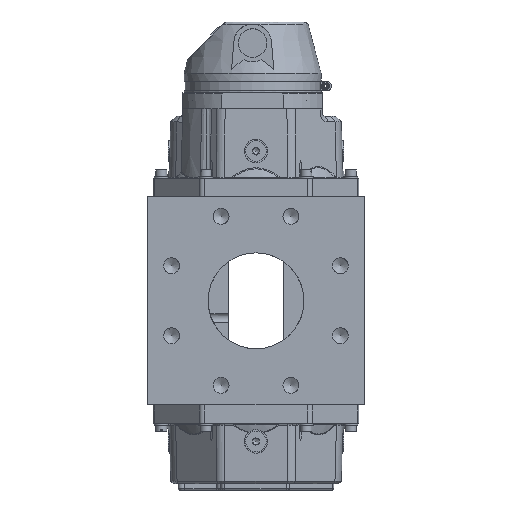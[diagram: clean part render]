
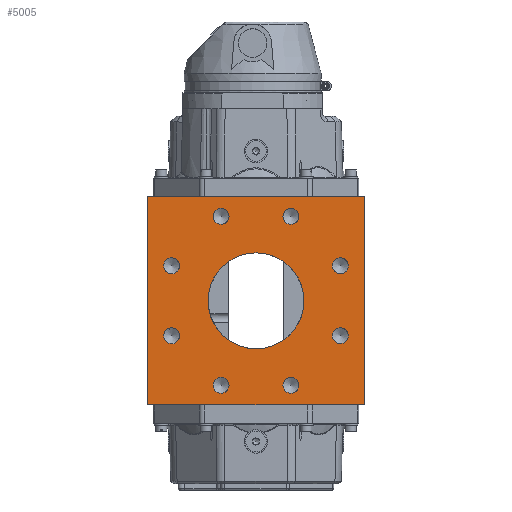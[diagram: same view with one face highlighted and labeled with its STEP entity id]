
A CAD part, left-side view. The second image highlights one B-rep face of the part: STEP entity #5005.
In plain terms, the highlighted planar face has unit normal (-1, 0, 0).
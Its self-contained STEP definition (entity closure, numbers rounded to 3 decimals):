
#5005=ADVANCED_FACE('',(#21548,#21550,#21552,#21554,#21556,#21558,#21560,#21562,
#21564,#21566),#21568,.F.);
#21548=FACE_BOUND('',#21549,.T.);
#21549=EDGE_LOOP('',(#34964,#34965,#34966,#34967));
#21550=FACE_BOUND('',#21551,.T.);
#21551=EDGE_LOOP('',(#34968));
#21552=FACE_BOUND('',#21553,.T.);
#21553=EDGE_LOOP('',(#34969));
#21554=FACE_BOUND('',#21555,.T.);
#21555=EDGE_LOOP('',(#34970));
#21556=FACE_BOUND('',#21557,.T.);
#21557=EDGE_LOOP('',(#34971));
#21558=FACE_BOUND('',#21559,.T.);
#21559=EDGE_LOOP('',(#34972));
#21560=FACE_BOUND('',#21561,.T.);
#21561=EDGE_LOOP('',(#34973));
#21562=FACE_BOUND('',#21563,.T.);
#21563=EDGE_LOOP('',(#34974));
#21564=FACE_BOUND('',#21565,.T.);
#21565=EDGE_LOOP('',(#34975));
#21566=FACE_BOUND('',#21567,.T.);
#21567=EDGE_LOOP('',(#34976));
#21568=PLANE('',#21569);
#21569=AXIS2_PLACEMENT_3D('',#21570,#21571,#21572);
#21570=CARTESIAN_POINT('',(-85.5,95.,91.15));
#21571=DIRECTION('',(1.,0.,0.));
#21572=DIRECTION('',(0.,0.,-1.));
#34964=ORIENTED_EDGE('',*,*,#41023,.T.);
#34965=ORIENTED_EDGE('',*,*,#41024,.F.);
#34966=ORIENTED_EDGE('',*,*,#40677,.F.);
#34967=ORIENTED_EDGE('',*,*,#41022,.T.);
#34968=ORIENTED_EDGE('',*,*,#41025,.T.);
#34969=ORIENTED_EDGE('',*,*,#41026,.F.);
#34970=ORIENTED_EDGE('',*,*,#41027,.F.);
#34971=ORIENTED_EDGE('',*,*,#41028,.F.);
#34972=ORIENTED_EDGE('',*,*,#41029,.F.);
#34973=ORIENTED_EDGE('',*,*,#41030,.F.);
#34974=ORIENTED_EDGE('',*,*,#41031,.F.);
#34975=ORIENTED_EDGE('',*,*,#41032,.F.);
#34976=ORIENTED_EDGE('',*,*,#41033,.F.);
#40677=EDGE_CURVE('',#45080,#45082,#45083,.T.);
#41022=EDGE_CURVE('',#45080,#45628,#45630,.T.);
#41023=EDGE_CURVE('',#45628,#45631,#45632,.T.);
#41024=EDGE_CURVE('',#45082,#45631,#45633,.T.);
#41025=EDGE_CURVE('',#45634,#45634,#45635,.T.);
#41026=EDGE_CURVE('',#45636,#45636,#45637,.T.);
#41027=EDGE_CURVE('',#45638,#45638,#45639,.T.);
#41028=EDGE_CURVE('',#45640,#45640,#45641,.T.);
#41029=EDGE_CURVE('',#45642,#45642,#45643,.T.);
#41030=EDGE_CURVE('',#45644,#45644,#45645,.T.);
#41031=EDGE_CURVE('',#45646,#45646,#45647,.T.);
#41032=EDGE_CURVE('',#45648,#45648,#45649,.T.);
#41033=EDGE_CURVE('',#45650,#45650,#45651,.T.);
#45080=VERTEX_POINT('',#60754);
#45082=VERTEX_POINT('',#60758);
#45083=LINE('',#60759,#60760);
#45628=VERTEX_POINT('',#63811);
#45630=LINE('',#63815,#63816);
#45631=VERTEX_POINT('',#63818);
#45632=LINE('',#63819,#63820);
#45633=LINE('',#63822,#63823);
#45634=VERTEX_POINT('',#63825);
#45635=CIRCLE('',#63826,42.);
#45636=VERTEX_POINT('',#63830);
#45637=CIRCLE('',#63831,7.);
#45638=VERTEX_POINT('',#63835);
#45639=CIRCLE('',#63836,7.);
#45640=VERTEX_POINT('',#63840);
#45641=CIRCLE('',#63841,7.);
#45642=VERTEX_POINT('',#63845);
#45643=CIRCLE('',#63846,7.);
#45644=VERTEX_POINT('',#63850);
#45645=CIRCLE('',#63851,7.);
#45646=VERTEX_POINT('',#63855);
#45647=CIRCLE('',#63856,7.);
#45648=VERTEX_POINT('',#63860);
#45649=CIRCLE('',#63861,7.);
#45650=VERTEX_POINT('',#63865);
#45651=CIRCLE('',#63866,7.);
#60754=CARTESIAN_POINT('',(-85.5,95.,91.15));
#60758=CARTESIAN_POINT('',(-85.5,-95.,91.15));
#60759=CARTESIAN_POINT('',(-85.5,95.,91.15));
#60760=VECTOR('',#60761,1.);
#60761=DIRECTION('',(0.,-1.,0.));
#63811=CARTESIAN_POINT('',(-85.5,95.,-91.15));
#63815=CARTESIAN_POINT('',(-85.5,95.,91.15));
#63816=VECTOR('',#63817,1.);
#63817=DIRECTION('',(0.,0.,-1.));
#63818=CARTESIAN_POINT('',(-85.5,-95.,-91.15));
#63819=CARTESIAN_POINT('',(-85.5,95.,-91.15));
#63820=VECTOR('',#63821,1.);
#63821=DIRECTION('',(0.,-1.,0.));
#63822=CARTESIAN_POINT('',(-85.5,-95.,91.15));
#63823=VECTOR('',#63824,1.);
#63824=DIRECTION('',(0.,0.,-1.));
#63825=CARTESIAN_POINT('',(-85.5,0.,42.));
#63826=AXIS2_PLACEMENT_3D('',#63827,#63828,#63829);
#63827=CARTESIAN_POINT('',(-85.5,0.,0.));
#63828=DIRECTION('',(1.,0.,0.));
#63829=DIRECTION('',(0.,0.,1.));
#63830=CARTESIAN_POINT('',(-85.5,30.615,-66.91));
#63831=AXIS2_PLACEMENT_3D('',#63832,#63833,#63834);
#63832=CARTESIAN_POINT('',(-85.5,30.615,-73.91));
#63833=DIRECTION('',(-1.,0.,0.));
#63834=DIRECTION('',(0.,0.,-1.));
#63835=CARTESIAN_POINT('',(-85.5,73.91,-23.615));
#63836=AXIS2_PLACEMENT_3D('',#63837,#63838,#63839);
#63837=CARTESIAN_POINT('',(-85.5,73.91,-30.615));
#63838=DIRECTION('',(-1.,0.,0.));
#63839=DIRECTION('',(0.,0.,-1.));
#63840=CARTESIAN_POINT('',(-85.5,73.91,37.615));
#63841=AXIS2_PLACEMENT_3D('',#63842,#63843,#63844);
#63842=CARTESIAN_POINT('',(-85.5,73.91,30.615));
#63843=DIRECTION('',(-1.,0.,0.));
#63844=DIRECTION('',(0.,0.,-1.));
#63845=CARTESIAN_POINT('',(-85.5,30.615,80.91));
#63846=AXIS2_PLACEMENT_3D('',#63847,#63848,#63849);
#63847=CARTESIAN_POINT('',(-85.5,30.615,73.91));
#63848=DIRECTION('',(-1.,0.,0.));
#63849=DIRECTION('',(0.,0.,-1.));
#63850=CARTESIAN_POINT('',(-85.5,-30.615,80.91));
#63851=AXIS2_PLACEMENT_3D('',#63852,#63853,#63854);
#63852=CARTESIAN_POINT('',(-85.5,-30.615,73.91));
#63853=DIRECTION('',(-1.,0.,0.));
#63854=DIRECTION('',(0.,0.,-1.));
#63855=CARTESIAN_POINT('',(-85.5,-73.91,37.615));
#63856=AXIS2_PLACEMENT_3D('',#63857,#63858,#63859);
#63857=CARTESIAN_POINT('',(-85.5,-73.91,30.615));
#63858=DIRECTION('',(-1.,0.,0.));
#63859=DIRECTION('',(0.,0.,-1.));
#63860=CARTESIAN_POINT('',(-85.5,-73.91,-23.615));
#63861=AXIS2_PLACEMENT_3D('',#63862,#63863,#63864);
#63862=CARTESIAN_POINT('',(-85.5,-73.91,-30.615));
#63863=DIRECTION('',(-1.,0.,0.));
#63864=DIRECTION('',(0.,0.,-1.));
#63865=CARTESIAN_POINT('',(-85.5,-30.615,-66.91));
#63866=AXIS2_PLACEMENT_3D('',#63867,#63868,#63869);
#63867=CARTESIAN_POINT('',(-85.5,-30.615,-73.91));
#63868=DIRECTION('',(-1.,0.,0.));
#63869=DIRECTION('',(0.,0.,-1.));
